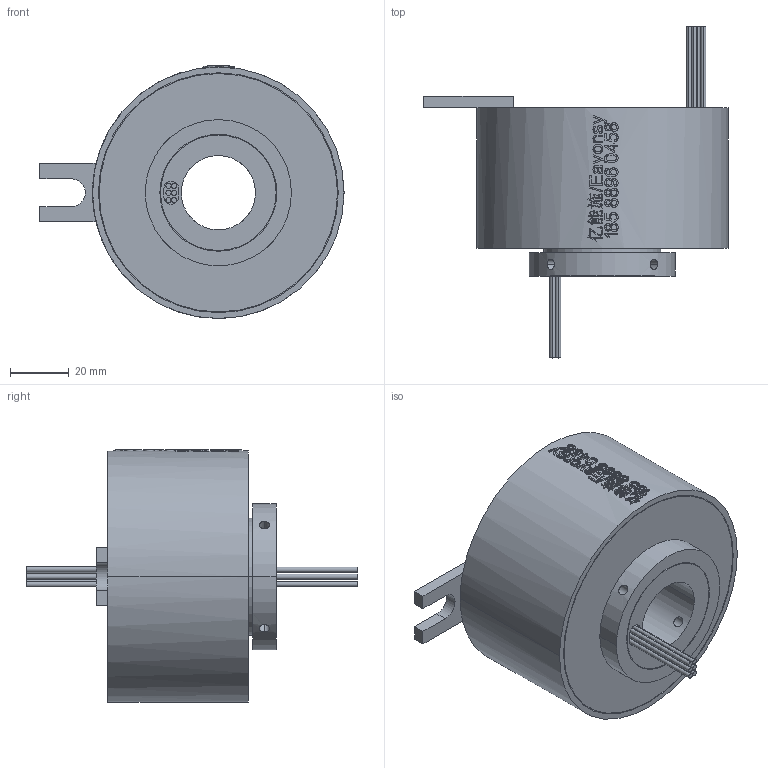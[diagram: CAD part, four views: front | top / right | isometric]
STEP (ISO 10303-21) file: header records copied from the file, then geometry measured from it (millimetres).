
FILE_DESCRIPTION(/* description */ (''),/* implementation_level */ '2;1');
FILE_NAME(/* name */ 'HD2586-0610.stp',/* time_stamp */ '2025-01-19T09:04:24+08:00',/* author */ (''),/* organization */ (''),/* preprocessor_version */ 'ST-DEVELOPER v16.7',/* originating_system */ 'SIEMENS PLM Software NX 12.0',/* authorisation */ '');
FILE_SCHEMA (('AUTOMOTIVE_DESIGN { 1 0 10303 214 3 1 1 1 }'));
Length unit declared in the file: millimetre
Products named in the file (1): HX05089CE4B9b93s
Bounding box: 104 x 113.5 x 86.5 mm (x, y, z)
Volume: 269106.9 mm3; surface area: 36661.4 mm2
Topology: 1 solids, 1 shells, 428 faces, 1077 edges, 718 vertices
Faces by surface type: plane 226, extrusion 89, cylinder 81, bspline 28, torus 4
Entity records: 26401 total; most frequent: CARTESIAN_POINT 17100, ORIENTED_EDGE 2122, DIRECTION 1441, EDGE_CURVE 1061, VERTEX_POINT 718, B_SPLINE_CURVE_WITH_KNOTS 680, AXIS2_PLACEMENT_3D 570, EDGE_LOOP 523
